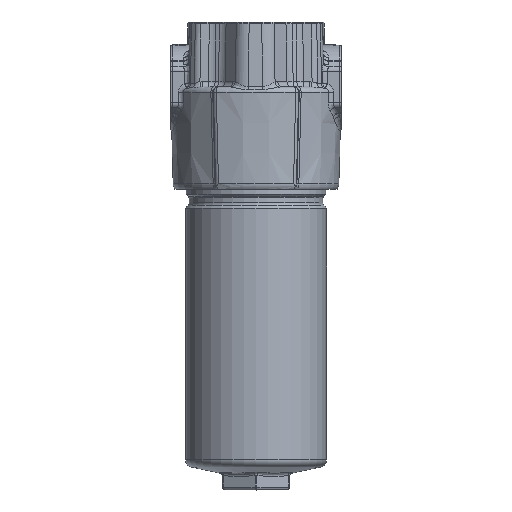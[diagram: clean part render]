
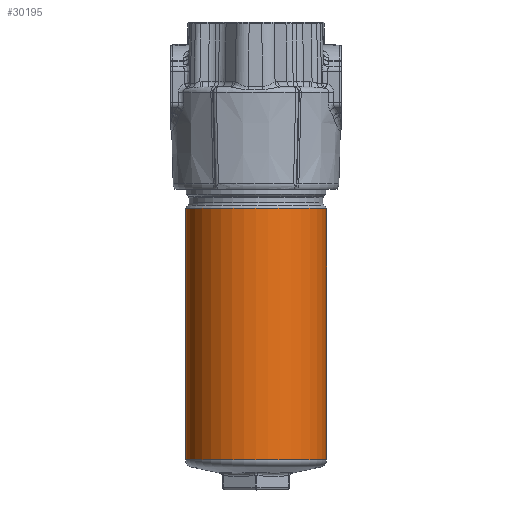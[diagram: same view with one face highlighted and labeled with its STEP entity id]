
A CAD part, top view. The second image highlights one B-rep face of the part: STEP entity #30195.
In plain terms, the highlighted cylindrical face has radius 38 mm (diameter 76 mm), a partial arc.
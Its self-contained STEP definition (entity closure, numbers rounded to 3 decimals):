
#10916=CARTESIAN_POINT('',(0.,-65.25,0.));
#10917=DIRECTION('',(0.,-1.,0.));
#10918=DIRECTION('',(1.,0.,0.));
#10919=AXIS2_PLACEMENT_3D('',#10916,#10917,#10918);
#10971=CARTESIAN_POINT('',(0.,-200.754,0.));
#10972=DIRECTION('',(0.,-1.,0.));
#10973=DIRECTION('',(1.,0.,0.));
#10974=AXIS2_PLACEMENT_3D('',#10971,#10972,#10973);
#10979=DIRECTION('',(0.,-1.,0.));
#10980=VECTOR('',#10979,96.75);
#10981=CARTESIAN_POINT('',(38.,-104.004,
-0.154));
#10982=LINE('',#10981,#10980);
#11848=CARTESIAN_POINT('',(0.,-200.754,0.));
#11849=DIRECTION('',(0.,1.,0.));
#11850=DIRECTION('',(1.,0.,0.));
#11851=AXIS2_PLACEMENT_3D('',#11848,#11849,#11850);
#11872=DIRECTION('',(0.,-1.,0.));
#11873=VECTOR('',#11872,135.504);
#11874=CARTESIAN_POINT('',(-38.,-65.25,0.));
#11875=LINE('',#11874,#11873);
#11879=CARTESIAN_POINT('',(0.,-104.004,0.));
#11880=DIRECTION('',(0.,1.,0.));
#11881=DIRECTION('',(1.,0.,0.));
#11882=AXIS2_PLACEMENT_3D('',#11879,#11880,#11881);
#11887=DIRECTION('',(0.,1.,0.));
#11888=VECTOR('',#11887,38.754);
#11889=CARTESIAN_POINT('',(38.,-104.004,0.));
#11890=LINE('',#11889,#11888);
#13052=CARTESIAN_POINT('',(-38.,-65.25,0.));
#13053=VERTEX_POINT('',#13052);
#13054=CARTESIAN_POINT('',(38.,-65.25,0.));
#13055=VERTEX_POINT('',#13054);
#13058=CARTESIAN_POINT('',(38.,-104.004,0.));
#13059=VERTEX_POINT('',#13058);
#13060=CARTESIAN_POINT('',(38.,-200.754,0.));
#13062=VERTEX_POINT('',#13060);
#13064=CARTESIAN_POINT('',(-38.,-200.754,0.));
#13066=VERTEX_POINT('',#13064);
#13128=CARTESIAN_POINT('',(38.,-104.004,
-0.154));
#13129=VERTEX_POINT('',#13128);
#13130=CARTESIAN_POINT('',(38.,-200.754,
-0.154));
#13131=VERTEX_POINT('',#13130);
#30175=CARTESIAN_POINT('',(0.,-11.3,0.));
#30176=DIRECTION('',(0.,-1.,0.));
#30177=DIRECTION('',(-1.,0.,0.));
#30178=AXIS2_PLACEMENT_3D('',#30175,#30176,#30177);
#30179=CYLINDRICAL_SURFACE('',#30178,38.);
#30181=ORIENTED_EDGE('',*,*,#30180,.T.);
#30183=ORIENTED_EDGE('',*,*,#30182,.F.);
#30184=ORIENTED_EDGE('',*,*,#30141,.F.);
#30186=ORIENTED_EDGE('',*,*,#30185,.F.);
#30188=ORIENTED_EDGE('',*,*,#30187,.T.);
#30190=ORIENTED_EDGE('',*,*,#30189,.T.);
#30192=ORIENTED_EDGE('',*,*,#30191,.F.);
#30193=EDGE_LOOP('',(#30181,#30183,#30184,#30186,#30188,#30190,#30192));
#30194=FACE_OUTER_BOUND('',#30193,.F.);
#10920=CIRCLE('',#10919,38.);
#10975=CIRCLE('',#10974,38.);
#11852=CIRCLE('',#11851,38.);
#11883=CIRCLE('',#11882,38.);
#30141=EDGE_CURVE('',#13055,#13053,#10920,.T.);
#30180=EDGE_CURVE('',#13062,#13066,#10975,.T.);
#30182=EDGE_CURVE('',#13053,#13066,#11875,.T.);
#30185=EDGE_CURVE('',#13059,#13055,#11890,.T.);
#30187=EDGE_CURVE('',#13059,#13129,#11883,.T.);
#30189=EDGE_CURVE('',#13129,#13131,#10982,.T.);
#30191=EDGE_CURVE('',#13062,#13131,#11852,.T.);
#30195=ADVANCED_FACE('',(#30194),#30179,.T.);
